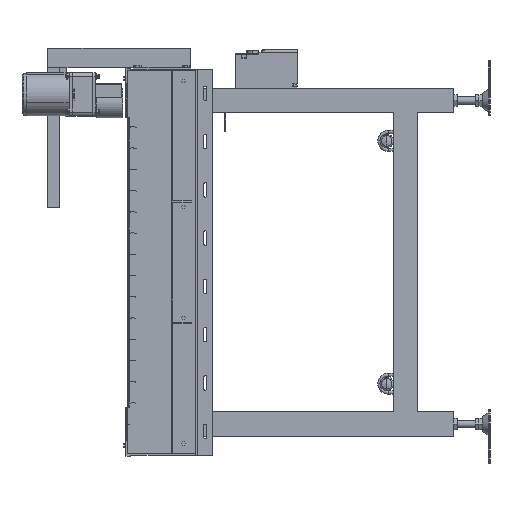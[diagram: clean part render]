
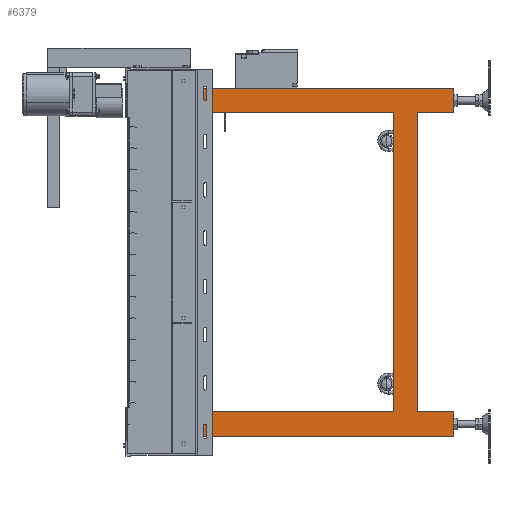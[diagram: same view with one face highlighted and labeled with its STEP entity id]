
A CAD part, left-side view. The second image highlights one B-rep face of the part: STEP entity #6379.
In plain terms, the highlighted planar face has unit normal (-1, 0, 0).
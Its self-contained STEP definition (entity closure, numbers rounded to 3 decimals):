
#6379=ADVANCED_FACE('',(#36386),#36385,.T.);
#36385=PLANE('',#60609);
#36386=FACE_OUTER_BOUND('',#60610,.T.);
#60606=CARTESIAN_POINT('',(10.,-685.,-370.));
#60607=DIRECTION('',(-1.,0.,0.));
#60608=DIRECTION('',(0.,0.,1.));
#60609=AXIS2_PLACEMENT_3D('',#60606,#60607,#60608);
#60610=EDGE_LOOP('',(#77545,#77546,#77547,#77548,#77549,#77550,#77551,#77552,#77553,#77554,#77555,#77556));
#77545=ORIENTED_EDGE('',*,*,#87974,.F.);
#77546=ORIENTED_EDGE('',*,*,#87957,.F.);
#77547=ORIENTED_EDGE('',*,*,#87975,.F.);
#77548=ORIENTED_EDGE('',*,*,#87962,.T.);
#77549=ORIENTED_EDGE('',*,*,#87976,.T.);
#77550=ORIENTED_EDGE('',*,*,#87977,.F.);
#77551=ORIENTED_EDGE('',*,*,#87978,.F.);
#77552=ORIENTED_EDGE('',*,*,#87979,.T.);
#77553=ORIENTED_EDGE('',*,*,#87948,.T.);
#77554=ORIENTED_EDGE('',*,*,#87965,.F.);
#77555=ORIENTED_EDGE('',*,*,#87980,.T.);
#77556=ORIENTED_EDGE('',*,*,#87981,.T.);
#87948=EDGE_CURVE('',#135643,#135657,#135664,.T.);
#87957=EDGE_CURVE('',#135718,#135725,#135726,.T.);
#87962=EDGE_CURVE('',#135738,#135753,#135760,.T.);
#87965=EDGE_CURVE('',#135773,#135657,#135780,.T.);
#87974=EDGE_CURVE('',#135725,#135839,#135840,.T.);
#87975=EDGE_CURVE('',#135738,#135718,#135846,.T.);
#87976=EDGE_CURVE('',#135753,#135852,#135853,.T.);
#87977=EDGE_CURVE('',#135859,#135852,#135860,.T.);
#87978=EDGE_CURVE('',#135866,#135859,#135867,.T.);
#87979=EDGE_CURVE('',#135866,#135643,#135873,.T.);
#87980=EDGE_CURVE('',#135773,#135879,#135880,.T.);
#87981=EDGE_CURVE('',#135879,#135839,#135886,.T.);
#135643=VERTEX_POINT('',#175537);
#135657=VERTEX_POINT('',#175545);
#135664=LINE('',#175549,#175550);
#135718=VERTEX_POINT('',#175579);
#135725=VERTEX_POINT('',#175583);
#135726=LINE('',#175584,#175585);
#135738=VERTEX_POINT('',#175590);
#135753=VERTEX_POINT('',#175599);
#135760=LINE('',#175603,#175604);
#135773=VERTEX_POINT('',#175610);
#135780=LINE('',#175614,#175615);
#135839=VERTEX_POINT('',#175646);
#135840=LINE('',#175647,#175648);
#135846=LINE('',#175650,#175651);
#135852=VERTEX_POINT('',#175653);
#135853=LINE('',#175654,#175655);
#135859=VERTEX_POINT('',#175657);
#135860=LINE('',#175658,#175659);
#135866=VERTEX_POINT('',#175661);
#135867=LINE('',#175662,#175663);
#135873=LINE('',#175665,#175666);
#135879=VERTEX_POINT('',#175668);
#135880=LINE('',#175669,#175670);
#135886=LINE('',#175672,#175673);
#175537=CARTESIAN_POINT('',(10.,-600.,-310.));
#175545=CARTESIAN_POINT('',(10.,-600.,310.));
#175549=CARTESIAN_POINT('',(10.,-600.,-310.));
#175550=VECTOR('',#175551,620.);
#175551=DIRECTION('',(0.,0.,1.));
#175579=CARTESIAN_POINT('',(10.,-550.,310.));
#175583=CARTESIAN_POINT('',(10.,-143.2,310.));
#175584=CARTESIAN_POINT('',(10.,-550.,310.));
#175585=VECTOR('',#175586,406.8);
#175586=DIRECTION('',(0.,1.,0.));
#175590=CARTESIAN_POINT('',(10.,-550.,-310.));
#175599=CARTESIAN_POINT('',(10.,-143.2,-310.));
#175603=CARTESIAN_POINT('',(10.,-550.,-310.));
#175604=VECTOR('',#175605,406.8);
#175605=DIRECTION('',(0.,1.,0.));
#175610=CARTESIAN_POINT('',(10.,-675.,310.));
#175614=CARTESIAN_POINT('',(10.,-675.,310.));
#175615=VECTOR('',#175616,75.);
#175616=DIRECTION('',(0.,1.,0.));
#175646=CARTESIAN_POINT('',(10.,-143.2,360.));
#175647=CARTESIAN_POINT('',(10.,-143.2,310.));
#175648=VECTOR('',#175649,50.);
#175649=DIRECTION('',(0.,0.,1.));
#175650=CARTESIAN_POINT('',(10.,-550.,-310.));
#175651=VECTOR('',#175652,620.);
#175652=DIRECTION('',(0.,0.,1.));
#175653=CARTESIAN_POINT('',(10.,-143.2,-360.));
#175654=CARTESIAN_POINT('',(10.,-143.2,-310.));
#175655=VECTOR('',#175656,50.);
#175656=DIRECTION('',(0.,0.,-1.));
#175657=CARTESIAN_POINT('',(10.,-675.,-360.));
#175658=CARTESIAN_POINT('',(10.,-675.,-360.));
#175659=VECTOR('',#175660,531.8);
#175660=DIRECTION('',(0.,1.,0.));
#175661=CARTESIAN_POINT('',(10.,-675.,-310.));
#175662=CARTESIAN_POINT('',(10.,-675.,-310.));
#175663=VECTOR('',#175664,50.);
#175664=DIRECTION('',(0.,0.,-1.));
#175665=CARTESIAN_POINT('',(10.,-675.,-310.));
#175666=VECTOR('',#175667,75.);
#175667=DIRECTION('',(0.,1.,0.));
#175668=CARTESIAN_POINT('',(10.,-675.,360.));
#175669=CARTESIAN_POINT('',(10.,-675.,310.));
#175670=VECTOR('',#175671,50.);
#175671=DIRECTION('',(0.,0.,1.));
#175672=CARTESIAN_POINT('',(10.,-675.,360.));
#175673=VECTOR('',#175674,531.8);
#175674=DIRECTION('',(0.,1.,0.));
